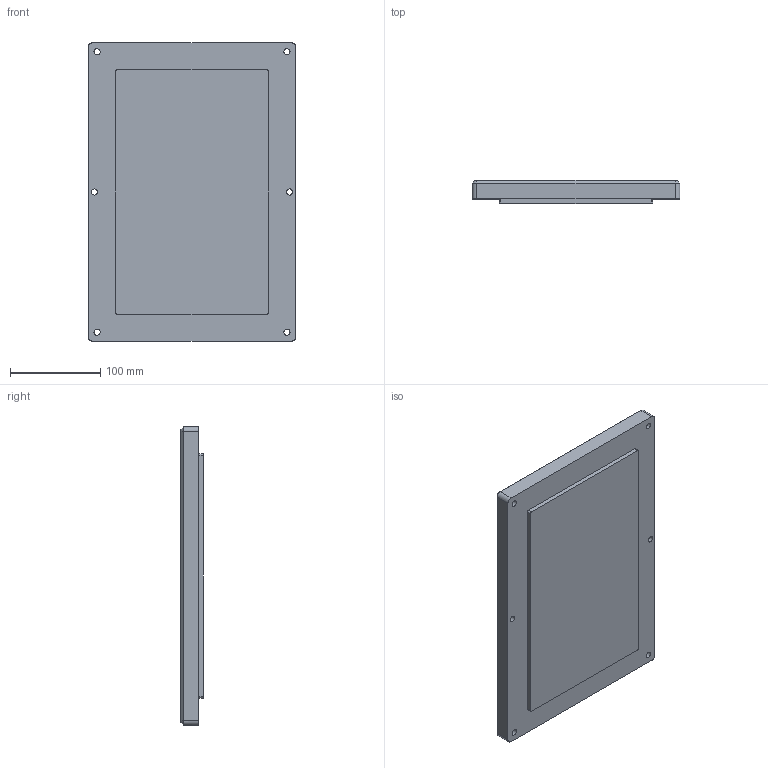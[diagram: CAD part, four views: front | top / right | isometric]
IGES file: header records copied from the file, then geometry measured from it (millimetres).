
Global section: file name: boite etanche bride; native system: unknown; preprocessor: unknown; author: unknown; organization: unknown; date: 20160713.174653; units: millimetre
Bounding box: 230 x 25 x 330 mm (x, y, z)
Volume: 1737742.5 mm3; surface area: 178530.4 mm2
Topology: 1 solids, 1 shells, 33 faces, 82 edges, 52 vertices
Faces by surface type: bspline 33
